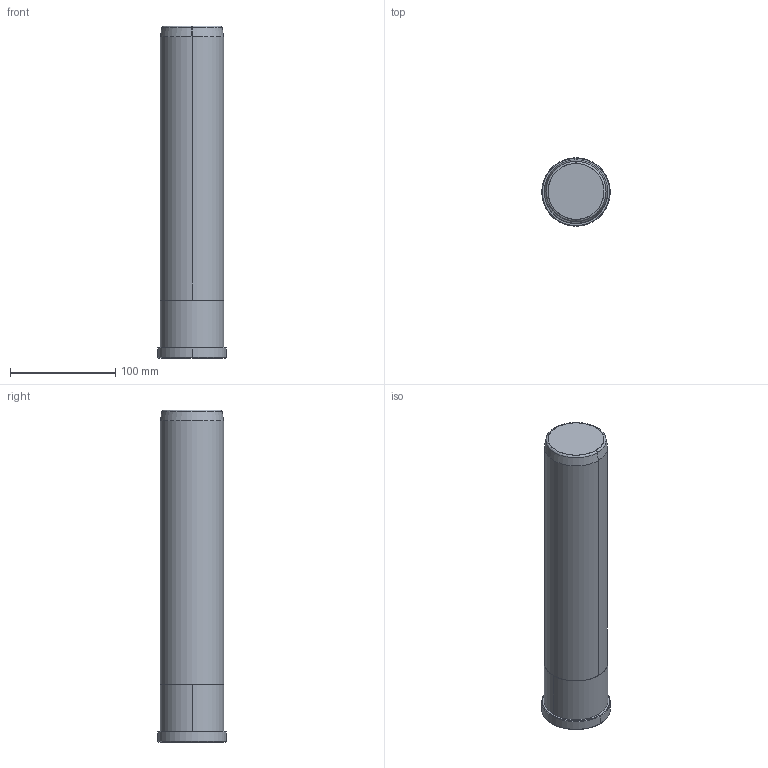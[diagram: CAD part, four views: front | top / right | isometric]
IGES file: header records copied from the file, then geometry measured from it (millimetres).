
Start section: START RECORD GO HERE.
Global section: file name: B80860315.igs; native system: DASSAULT SYSTEMES CATIA V5 R20 - www.3ds.com; preprocessor: CATIA Version 5 Release 20 ; author: Utente; organization: NB04-ASUS; date: 20200419.164321; units: millimetre
Bounding box: 65 x 65 x 315 mm (x, y, z)
Surface area: 65601.2 mm2 (no closed solid volume)
Topology: 0 solids, 0 shells, 20 faces, 80 edges, 80 vertices
Faces by surface type: revolution 16, plane 4
